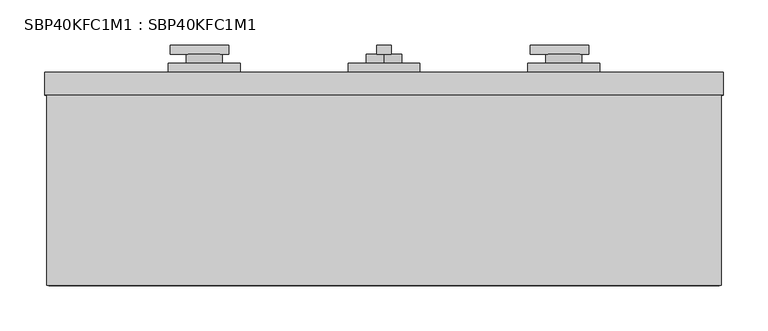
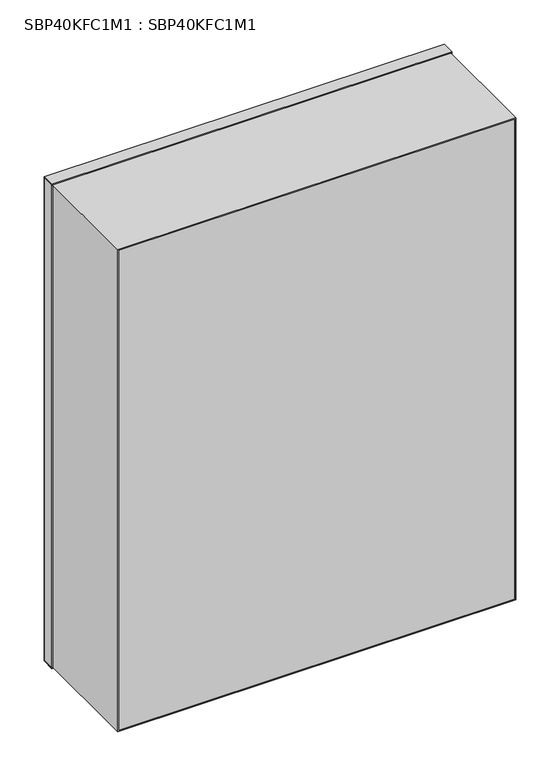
"""IFC4 building model written with IfcOpenShell, lengths in millimetres: proxy geometry, SBP40KFC1M1 : SBP40KFC1M1."""

from ifc_helpers import new_model, si_unit, point, frame, frame_2d, origin, place, context, project, spatial, polyline, circle_curve, trimmed, segment, composite_curve, outline, extrude, source, transform, mapped, element, save


def sbp40kfc1m1_sbp40kfc1m1_9b0228e6(model_context):
    return source(origin(), model_context, "Body", "SweptSolid", [
        extrude(outline(polyline([(-172.4102216, 215.9014283), (-237.4102216, 215.9014283), (-237.4102216, 226.1261332), (-172.4102216, 226.1261332), (-172.4102216, 215.9014283)])), frame((0.0, 0.0, 1471.7384663), z_axis=(0.0, 0.0, 1.0), x_axis=(1.0, 0.0, 0.0)), (0.0, 0.0, 1.0), 16.5530769),
        extrude(outline(composite_curve([segment(trimmed(circle_curve(frame_2d((1480.0, -200.0)), 20.0), [point((1480.0, -220.0))], [point((1480.0, -180.0))], False, "CARTESIAN"), True, "CONTINUOUS"), segment(trimmed(circle_curve(frame_2d((1480.0, -200.0)), 20.0), [point((1480.0, -180.0))], [point((1480.0, -220.0))], False, "CARTESIAN"), True, "CONTINUOUS")], self_intersect=False)), frame((0.0, 205.8679642, 0.0), z_axis=(0.0, 1.0, 0.0), x_axis=(0.0, 0.0, 1.0)), (0.0, 0.0, 1.0), 10.0334641),
        extrude(outline(polyline([(-160.0, 195.898094), (-240.0, 195.898094), (-240.0, 205.8679642), (-160.0, 205.8679642), (-160.0, 195.898094)])), frame((0.0, 0.0, 1440.0), z_axis=(0.0, 0.0, 1.0), x_axis=(1.0, 0.0, 0.0)), (0.0, 0.0, 1.0), 80.0),
        extrude(outline(polyline([(8.2765385, 215.9014283), (-8.2765385, 215.9014283), (-8.2765385, 226.1261332), (8.2765385, 226.1261332), (8.2765385, 215.9014283)])), frame((0.0, 0.0, 1442.5897784), z_axis=(0.0, 0.0, 1.0), x_axis=(1.0, 0.0, 0.0)), (0.0, 0.0, 1.0), 65.0),
        extrude(outline(composite_curve([segment(trimmed(circle_curve(frame_2d((1480.0, 0.0150048)), 20.0), [point((1460.0, 0.0150048))], [point((1500.0, 0.0150048))], False, "CARTESIAN"), True, "CONTINUOUS"), segment(trimmed(circle_curve(frame_2d((1480.0, 0.0150048)), 20.0), [point((1500.0, 0.0150048))], [point((1460.0, 0.0150048))], False, "CARTESIAN"), True, "CONTINUOUS")], self_intersect=False)), frame((0.0, 205.8679642, 0.0), z_axis=(0.0, 1.0, 0.0), x_axis=(0.0, 0.0, 1.0)), (0.0, 0.0, 1.0), 10.0334641),
        extrude(outline(polyline([(40.0, 195.898094), (-40.0, 195.898094), (-40.0, 205.8679642), (40.0, 205.8679642), (40.0, 195.898094)])), frame((0.0, 0.0, 1440.0), z_axis=(0.0, 0.0, 1.0), x_axis=(1.0, 0.0, 0.0)), (0.0, 0.0, 1.0), 80.0),
        extrude(outline(polyline([(227.5897784, 215.9014283), (162.5897784, 215.9014283), (162.5897784, 226.1261332), (227.5897784, 226.1261332), (227.5897784, 215.9014283)])), frame((0.0, 0.0, 1471.7384663), z_axis=(0.0, 0.0, 1.0), x_axis=(1.0, 0.0, 0.0)), (0.0, 0.0, 1.0), 16.5530769),
        extrude(outline(composite_curve([segment(trimmed(circle_curve(frame_2d((1480.0, 200.0)), 20.0), [point((1480.0, 180.0))], [point((1480.0, 220.0))], False, "CARTESIAN"), True, "CONTINUOUS"), segment(trimmed(circle_curve(frame_2d((1480.0, 200.0)), 20.0), [point((1480.0, 220.0))], [point((1480.0, 180.0))], False, "CARTESIAN"), True, "CONTINUOUS")], self_intersect=False)), frame((0.0, 205.8679642, 0.0), z_axis=(0.0, 1.0, 0.0), x_axis=(0.0, 0.0, 1.0)), (0.0, 0.0, 1.0), 10.0334641),
        extrude(outline(polyline([(240.0, 195.898094), (160.0, 195.898094), (160.0, 205.8679642), (240.0, 205.8679642), (240.0, 195.898094)])), frame((0.0, 0.0, 1440.0), z_axis=(0.0, 0.0, 1.0), x_axis=(1.0, 0.0, 0.0)), (0.0, 0.0, 1.0), 80.0),
        extrude(outline(polyline([(-377.0, 170.6545491), (-377.0, 193.68685), (-375.0, 193.68685), (-375.0, 170.6545491), (-377.0, 170.6545491)])), frame((0.0, 0.0, 1000.0), z_axis=(0.0, 0.0, 1.0), x_axis=(1.0, 0.0, 0.0)), (0.0, 0.0, 1.0), 960.0),
        extrude(outline(polyline([(377.0, 193.68685), (377.0, 170.6545491), (375.0, 170.6545491), (375.0, 193.68685), (377.0, 193.68685)])), frame((0.0, 0.0, 1000.0), z_axis=(0.0, 0.0, 1.0), x_axis=(1.0, 0.0, 0.0)), (0.0, 0.0, 1.0), 960.0),
        extrude(outline(polyline([(170.6545491, 1960.0), (170.6545491, 1962.0060629), (195.898094, 1962.0060629), (195.898094, 998.0085125), (170.6545491, 998.0085125), (170.6545491, 1000.0), (193.68685, 1000.0), (193.68685, 1960.0), (170.6545491, 1960.0)])), frame((-377.0, 0.0, 0.0), z_axis=(1.0, 0.0, 0.0), x_axis=(0.0, 1.0, 0.0)), (0.0, 0.0, 1.0), 754.0),
        extrude(outline(polyline([(1960.0, -375.0), (1000.0, -375.0), (1000.0, 375.0), (1960.0, 375.0), (1960.0, -375.0)]), holes=[polyline([(1958.0, -373.0), (1958.0, 373.0), (1002.0, 373.0), (1002.0, -373.0), (1958.0, -373.0)])]), frame((0.0, -41.31315, 0.0), z_axis=(0.0, 1.0, 0.0), x_axis=(0.0, 0.0, 1.0)), (0.0, 0.0, 1.0), 235.0),
        extrude(outline(polyline([(375.0, -39.3582915), (375.0, -41.31315), (-375.0, -41.31315), (-375.0, -39.3582915), (375.0, -39.3582915)])), frame((0.0, 0.0, 1000.0), z_axis=(0.0, 0.0, 1.0), x_axis=(1.0, 0.0, 0.0)), (0.0, 0.0, 1.0), 960.0),
    ])


if __name__ == "__main__":
    model = new_model("IFC4")
    model_context = context("Model", 3, world=origin())
    ifc_project = project(units=[si_unit("LENGTHUNIT", "METRE", prefix="MILLI")], contexts=[model_context])
    site = spatial("IfcSite", under=ifc_project)
    building = spatial("IfcBuilding", under=site)
    placement = place(None, origin())
    sbp40kfc1m1_sbp40kfc1m1_shape = sbp40kfc1m1_sbp40kfc1m1_9b0228e6(model_context)
    element("IfcBuildingElementProxy", 1, Name="SBP40KFC1M1 : SBP40KFC1M1", ObjectType="SBP40KFC1M1 : SBP40KFC1M1", at=placement, inside=building, context=model_context, shape_type="MappedRepresentation", body=[
        mapped(sbp40kfc1m1_sbp40kfc1m1_shape, transform((0.0, 0.0, 0.0), x_axis=(1.0, 0.0, 0.0), y_axis=(0.0, 1.0, 0.0), z_axis=(0.0, 0.0, 1.0))),
    ])
    save(model, "model.ifc")
